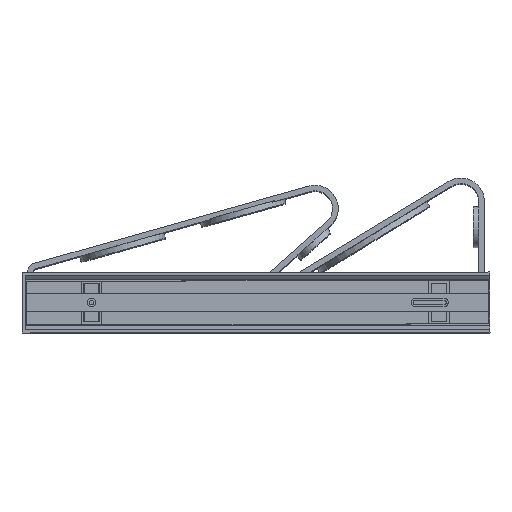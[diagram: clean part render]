
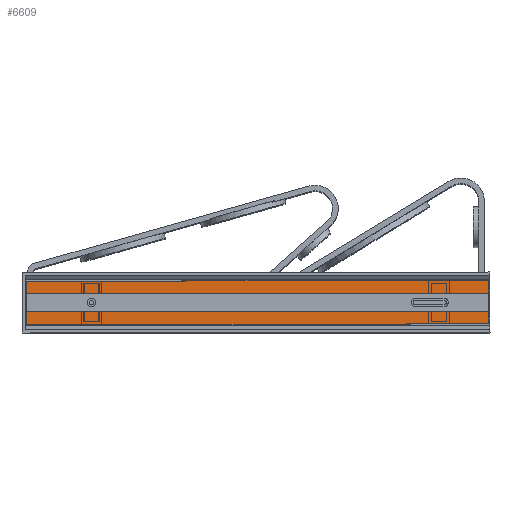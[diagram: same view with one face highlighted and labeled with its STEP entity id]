
A CAD part, top view. The second image highlights one B-rep face of the part: STEP entity #6609.
In plain terms, the highlighted planar face has unit normal (0, 0, 1) as drawn and (-1, 0, 0) by its records, which use the part's own axes.
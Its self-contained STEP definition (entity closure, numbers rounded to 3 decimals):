
#261=FACE_BOUND('',#886,.T.);
#262=FACE_BOUND('',#887,.T.);
#385=CIRCLE('',#7215,4.15);
#386=CIRCLE('',#7218,4.15);
#387=CIRCLE('',#7221,4.15);
#519=FACE_OUTER_BOUND('',#885,.T.);
#885=EDGE_LOOP('',(#4777,#4778,#4779,#4780));
#886=EDGE_LOOP('',(#4781,#4782,#4783,#4784));
#887=EDGE_LOOP('',(#4785));
#1332=LINE('',#9543,#2115);
#1335=LINE('',#9550,#2118);
#1339=LINE('',#9561,#2122);
#1343=LINE('',#9568,#2126);
#1345=LINE('',#9572,#2128);
#1347=LINE('',#9575,#2130);
#2115=VECTOR('',#7943,10.);
#2118=VECTOR('',#7952,10.);
#2122=VECTOR('',#7962,10.);
#2126=VECTOR('',#7968,10.);
#2128=VECTOR('',#7972,10.);
#2130=VECTOR('',#7976,10.);
#2892=VERTEX_POINT('',#9536);
#2893=VERTEX_POINT('',#9538);
#2894=VERTEX_POINT('',#9542);
#2895=VERTEX_POINT('',#9546);
#2896=VERTEX_POINT('',#9552);
#2898=VERTEX_POINT('',#9558);
#2899=VERTEX_POINT('',#9560);
#2901=VERTEX_POINT('',#9566);
#2902=VERTEX_POINT('',#9570);
#3595=EDGE_CURVE('',#2892,#2893,#385,.T.);
#3597=EDGE_CURVE('',#2893,#2894,#1332,.T.);
#3599=EDGE_CURVE('',#2894,#2895,#386,.T.);
#3601=EDGE_CURVE('',#2895,#2892,#1335,.T.);
#3602=EDGE_CURVE('',#2896,#2896,#387,.T.);
#3606=EDGE_CURVE('',#2898,#2899,#1339,.T.);
#3610=EDGE_CURVE('',#2901,#2898,#1343,.T.);
#3612=EDGE_CURVE('',#2902,#2901,#1345,.T.);
#3614=EDGE_CURVE('',#2899,#2902,#1347,.T.);
#4777=ORIENTED_EDGE('',*,*,#3614,.F.);
#4778=ORIENTED_EDGE('',*,*,#3606,.F.);
#4779=ORIENTED_EDGE('',*,*,#3610,.F.);
#4780=ORIENTED_EDGE('',*,*,#3612,.F.);
#4781=ORIENTED_EDGE('',*,*,#3595,.F.);
#4782=ORIENTED_EDGE('',*,*,#3601,.F.);
#4783=ORIENTED_EDGE('',*,*,#3599,.F.);
#4784=ORIENTED_EDGE('',*,*,#3597,.F.);
#4785=ORIENTED_EDGE('',*,*,#3602,.F.);
#6308=PLANE('',#7226);
#6609=ADVANCED_FACE('',(#519,#261,#262),#6308,.F.);
#7215=AXIS2_PLACEMENT_3D('',#9539,#7938,#7939);
#7218=AXIS2_PLACEMENT_3D('',#9547,#7947,#7948);
#7221=AXIS2_PLACEMENT_3D('',#9553,#7955,#7956);
#7226=AXIS2_PLACEMENT_3D('',#9576,#7977,#7978);
#7938=DIRECTION('center_axis',(-1.,0.,0.));
#7939=DIRECTION('ref_axis',(0.,-1.,0.));
#7943=DIRECTION('',(0.,0.,-1.));
#7947=DIRECTION('center_axis',(-1.,0.,0.));
#7948=DIRECTION('ref_axis',(0.,1.,0.));
#7952=DIRECTION('',(0.,0.,1.));
#7955=DIRECTION('center_axis',(-1.,0.,0.));
#7956=DIRECTION('ref_axis',(0.,0.,-1.));
#7962=DIRECTION('',(0.,-1.,0.));
#7968=DIRECTION('',(0.,0.,1.));
#7972=DIRECTION('',(0.,1.,0.));
#7976=DIRECTION('',(0.,0.,-1.));
#7977=DIRECTION('center_axis',(1.,0.,0.));
#7978=DIRECTION('ref_axis',(0.,0.,-1.));
#9536=CARTESIAN_POINT('',(1.986,-25.228,73.));
#9538=CARTESIAN_POINT('',(1.986,-16.928,73.));
#9539=CARTESIAN_POINT('Origin',(1.986,-21.078,73.));
#9542=CARTESIAN_POINT('',(1.986,-16.928,45.));
#9543=CARTESIAN_POINT('',(1.986,-16.928,136.25));
#9546=CARTESIAN_POINT('',(1.986,-25.228,45.));
#9547=CARTESIAN_POINT('Origin',(1.986,-21.078,45.));
#9550=CARTESIAN_POINT('',(1.986,-25.228,150.25));
#9552=CARTESIAN_POINT('',(1.986,-21.065,394.15));
#9553=CARTESIAN_POINT('Origin',(1.986,-21.065,390.));
#9558=CARTESIAN_POINT('',(1.986,0.038,453.5));
#9560=CARTESIAN_POINT('',(1.986,-42.167,453.5));
#9561=CARTESIAN_POINT('',(1.986,0.038,453.5));
#9566=CARTESIAN_POINT('',(1.986,0.038,1.5));
#9568=CARTESIAN_POINT('',(1.986,0.038,1.5));
#9570=CARTESIAN_POINT('',(1.986,-42.167,1.5));
#9572=CARTESIAN_POINT('',(1.986,-42.167,1.5));
#9575=CARTESIAN_POINT('',(1.986,-42.167,453.5));
#9576=CARTESIAN_POINT('Origin',(1.986,-21.064,227.5));
